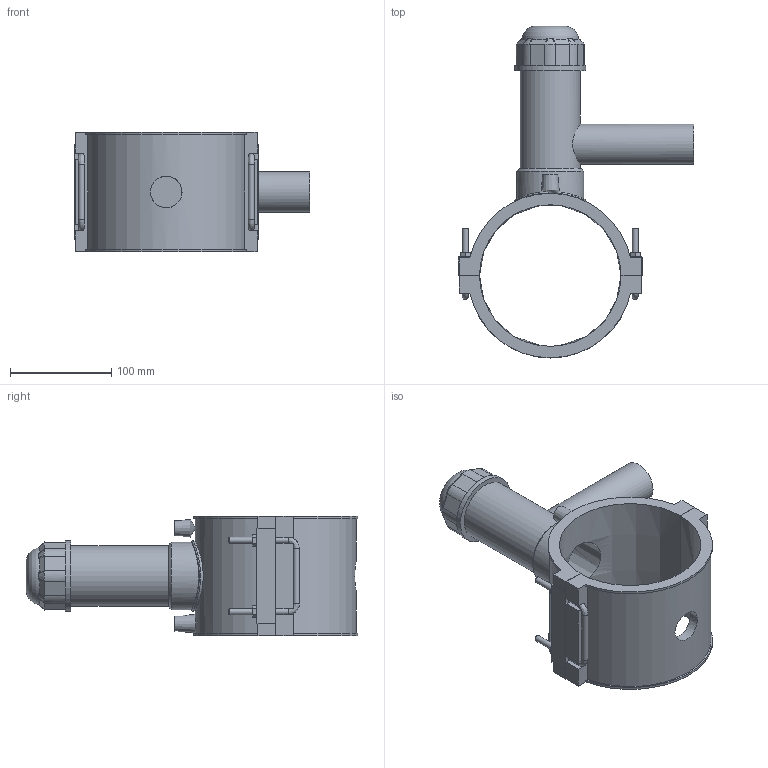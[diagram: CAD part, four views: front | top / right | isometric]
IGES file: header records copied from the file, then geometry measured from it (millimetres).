
Global section: file name: 496304140040.ipt; native system: Autodesk Inventor 2015; preprocessor: unknown; author: KIM; date: 20190124.130950; units: millimetre
Bounding box: 233 x 328.4 x 118 mm (x, y, z)
Volume: 941734.9 mm3; surface area: 228334.3 mm2
Topology: 2 solids, 2 shells, 207 faces, 522 edges, 335 vertices
Faces by surface type: plane 118, cylinder 33, bspline 21, revolution 20, cone 15
Full cylindrical faces by diameter (mm): 4 x2, 6 x10, 40 x1, 59.5 x1, 66.5 x1, 70 x2
